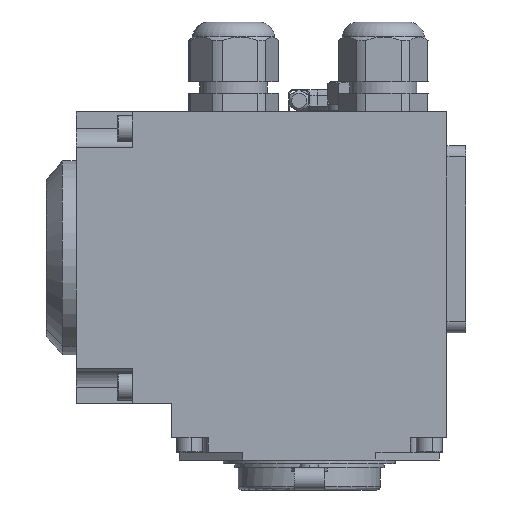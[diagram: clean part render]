
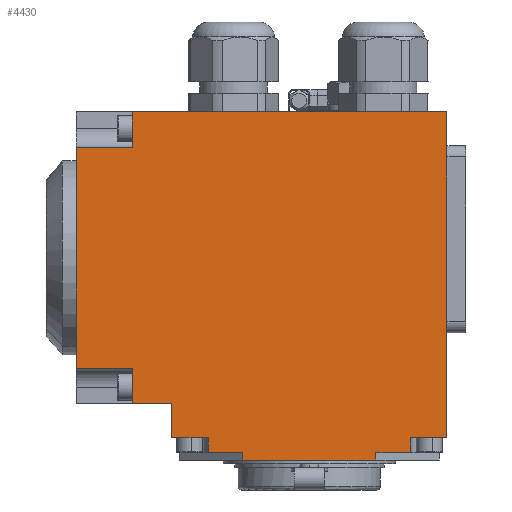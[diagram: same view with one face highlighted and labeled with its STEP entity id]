
A CAD part, left-side view. The second image highlights one B-rep face of the part: STEP entity #4430.
In plain terms, the highlighted planar face has unit normal (-1, 0, 0).
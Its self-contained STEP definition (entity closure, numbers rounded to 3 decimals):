
#15 = CARTESIAN_POINT ( 'NONE',  ( -61.5, 62.25, 9.5 ) ) ;
#80 = CARTESIAN_POINT ( 'NONE',  ( -61.5, 36.75, -9. ) ) ;
#265 = EDGE_CURVE ( 'NONE', #3477, #12577, #16172, .T. ) ;
#421 = DIRECTION ( 'NONE',  ( 1., 0., 0. ) ) ;
#570 = CARTESIAN_POINT ( 'NONE',  ( -61.5, 47.25, 68.5 ) ) ;
#833 = LINE ( 'NONE', #6743, #15998 ) ;
#876 = LINE ( 'NONE', #9746, #1099 ) ;
#904 = DIRECTION ( 'NONE',  ( 0., 0., -1. ) ) ;
#1020 = DIRECTION ( 'NONE',  ( 0., -1., 0. ) ) ;
#1079 = CARTESIAN_POINT ( 'NONE',  ( -61.5, 47.25, 0. ) ) ;
#1099 = VECTOR ( 'NONE', #904, 1000. ) ;
#1264 = EDGE_CURVE ( 'NONE', #11531, #12109, #16256, .T. ) ;
#1388 = EDGE_CURVE ( 'NONE', #18235, #5962, #7796, .T. ) ;
#1410 = EDGE_CURVE ( 'NONE', #16390, #5273, #876, .T. ) ;
#1440 = VECTOR ( 'NONE', #15228, 1000. ) ;
#1806 = VECTOR ( 'NONE', #7988, 1000. ) ;
#1901 = LINE ( 'NONE', #10902, #1440 ) ;
#2145 = VECTOR ( 'NONE', #18337, 1000. ) ;
#2538 = LINE ( 'NONE', #5122, #1806 ) ;
#2549 = CARTESIAN_POINT ( 'NONE',  ( -61.5, 47.25, 0. ) ) ;
#2668 = CARTESIAN_POINT ( 'NONE',  ( -61.5, -17.779, -13. ) ) ;
#2685 = CARTESIAN_POINT ( 'NONE',  ( -61.5, -36.75, 78. ) ) ;
#2923 = ORIENTED_EDGE ( 'NONE', *, *, #13472, .F. ) ;
#3137 = CARTESIAN_POINT ( 'NONE',  ( -61.5, 27., -15. ) ) ;
#3345 = DIRECTION ( 'NONE',  ( 0., -1., 0. ) ) ;
#3477 = VERTEX_POINT ( 'NONE', #3733 ) ;
#3506 = CARTESIAN_POINT ( 'NONE',  ( -61.5, 36.75, -9. ) ) ;
#3692 = VERTEX_POINT ( 'NONE', #2668 ) ;
#3695 = VECTOR ( 'NONE', #1020, 1000. ) ;
#3733 = CARTESIAN_POINT ( 'NONE',  ( -61.5, 47.25, 9.5 ) ) ;
#3888 = VECTOR ( 'NONE', #6520, 1000. ) ;
#3990 = EDGE_CURVE ( 'NONE', #3692, #16548, #2538, .T. ) ;
#4083 = ORIENTED_EDGE ( 'NONE', *, *, #7428, .T. ) ;
#4109 = EDGE_CURVE ( 'NONE', #3692, #14067, #16507, .T. ) ;
#4173 = ORIENTED_EDGE ( 'NONE', *, *, #3990, .F. ) ;
#4430 = ADVANCED_FACE ( 'NONE', ( #11014 ), #17962, .F. ) ;
#4539 = EDGE_CURVE ( 'NONE', #14067, #13021, #8248, .T. ) ;
#4542 = ORIENTED_EDGE ( 'NONE', *, *, #4539, .T. ) ;
#4560 = DIRECTION ( 'NONE',  ( 0., 0., 1. ) ) ;
#4607 = CARTESIAN_POINT ( 'NONE',  ( -61.5, 36.75, 0. ) ) ;
#4783 = DIRECTION ( 'NONE',  ( 0., -1., 0. ) ) ;
#4851 = CARTESIAN_POINT ( 'NONE',  ( -61.5, 62.25, 0. ) ) ;
#5122 = CARTESIAN_POINT ( 'NONE',  ( -61.5, -17.779, 11. ) ) ;
#5273 = VERTEX_POINT ( 'NONE', #18306 ) ;
#5557 = ORIENTED_EDGE ( 'NONE', *, *, #265, .T. ) ;
#5733 = CARTESIAN_POINT ( 'NONE',  ( -61.5, 17.779, -13. ) ) ;
#5745 = DIRECTION ( 'NONE',  ( 0., 0., 1. ) ) ;
#5853 = LINE ( 'NONE', #5733, #16360 ) ;
#5880 = AXIS2_PLACEMENT_3D ( 'NONE', #4851, #421, #4783 ) ;
#5962 = VERTEX_POINT ( 'NONE', #16592 ) ;
#6236 = VERTEX_POINT ( 'NONE', #15577 ) ;
#6244 = VERTEX_POINT ( 'NONE', #11439 ) ;
#6438 = EDGE_CURVE ( 'NONE', #6244, #11531, #15012, .T. ) ;
#6450 = ORIENTED_EDGE ( 'NONE', *, *, #4109, .T. ) ;
#6520 = DIRECTION ( 'NONE',  ( 0., 0., 1. ) ) ;
#6720 = EDGE_CURVE ( 'NONE', #18235, #12128, #17301, .T. ) ;
#6743 = CARTESIAN_POINT ( 'NONE',  ( -61.5, -36.75, -9. ) ) ;
#6807 = CARTESIAN_POINT ( 'NONE',  ( -61.5, 27., -15. ) ) ;
#6854 = CARTESIAN_POINT ( 'NONE',  ( -61.5, -17.779, -13. ) ) ;
#7229 = EDGE_CURVE ( 'NONE', #6244, #16390, #5853, .T. ) ;
#7244 = VECTOR ( 'NONE', #4560, 1000. ) ;
#7254 = DIRECTION ( 'NONE',  ( 0., -1., 0. ) ) ;
#7428 = EDGE_CURVE ( 'NONE', #12577, #9856, #9987, .T. ) ;
#7523 = EDGE_CURVE ( 'NONE', #16548, #5273, #10654, .T. ) ;
#7701 = CARTESIAN_POINT ( 'NONE',  ( -61.5, -17.779, -15. ) ) ;
#7796 = LINE ( 'NONE', #16765, #17627 ) ;
#7988 = DIRECTION ( 'NONE',  ( 0., 0., -1. ) ) ;
#8248 = LINE ( 'NONE', #12523, #3888 ) ;
#8260 = DIRECTION ( 'NONE',  ( 0., 0., 1. ) ) ;
#8544 = VECTOR ( 'NONE', #5745, 1000. ) ;
#8635 = CARTESIAN_POINT ( 'NONE',  ( -61.5, 62.25, 68.5 ) ) ;
#8727 = LINE ( 'NONE', #16344, #15826 ) ;
#9313 = EDGE_CURVE ( 'NONE', #13243, #12128, #15860, .T. ) ;
#9321 = VECTOR ( 'NONE', #16034, 1000. ) ;
#9377 = ORIENTED_EDGE ( 'NONE', *, *, #6438, .F. ) ;
#9519 = VECTOR ( 'NONE', #13707, 1000. ) ;
#9551 = CARTESIAN_POINT ( 'NONE',  ( -61.5, 62.25, 68.5 ) ) ;
#9559 = DIRECTION ( 'NONE',  ( 0., 1., 0. ) ) ;
#9746 = CARTESIAN_POINT ( 'NONE',  ( -61.5, 17.779, 11. ) ) ;
#9856 = VERTEX_POINT ( 'NONE', #4607 ) ;
#9987 = LINE ( 'NONE', #12245, #9519 ) ;
#10020 = ORIENTED_EDGE ( 'NONE', *, *, #1264, .F. ) ;
#10346 = EDGE_CURVE ( 'NONE', #13243, #3477, #8727, .T. ) ;
#10637 = DIRECTION ( 'NONE',  ( 0., 1., 0. ) ) ;
#10654 = LINE ( 'NONE', #6807, #18656 ) ;
#10902 = CARTESIAN_POINT ( 'NONE',  ( -61.5, 62.25, 78. ) ) ;
#11014 = FACE_OUTER_BOUND ( 'NONE', #14884, .T. ) ;
#11439 = CARTESIAN_POINT ( 'NONE',  ( -61.5, 27., -13. ) ) ;
#11507 = ORIENTED_EDGE ( 'NONE', *, *, #7229, .T. ) ;
#11531 = VERTEX_POINT ( 'NONE', #11565 ) ;
#11565 = CARTESIAN_POINT ( 'NONE',  ( -61.5, 27., -9. ) ) ;
#11825 = CARTESIAN_POINT ( 'NONE',  ( -61.5, 62.25, 0. ) ) ;
#12109 = VERTEX_POINT ( 'NONE', #17513 ) ;
#12128 = VERTEX_POINT ( 'NONE', #8635 ) ;
#12245 = CARTESIAN_POINT ( 'NONE',  ( -61.5, 62.25, 0. ) ) ;
#12523 = CARTESIAN_POINT ( 'NONE',  ( -61.5, -27., -15. ) ) ;
#12577 = VERTEX_POINT ( 'NONE', #1079 ) ;
#12710 = EDGE_CURVE ( 'NONE', #6236, #13021, #15259, .T. ) ;
#12770 = CARTESIAN_POINT ( 'NONE',  ( -61.5, 36.75, -9. ) ) ;
#13021 = VERTEX_POINT ( 'NONE', #18406 ) ;
#13095 = VERTEX_POINT ( 'NONE', #2685 ) ;
#13243 = VERTEX_POINT ( 'NONE', #15 ) ;
#13447 = ORIENTED_EDGE ( 'NONE', *, *, #7523, .F. ) ;
#13472 = EDGE_CURVE ( 'NONE', #5962, #13095, #1901, .T. ) ;
#13707 = DIRECTION ( 'NONE',  ( 0., -1., 0. ) ) ;
#13850 = ORIENTED_EDGE ( 'NONE', *, *, #15455, .T. ) ;
#13885 = DIRECTION ( 'NONE',  ( 0., 1., 0. ) ) ;
#14067 = VERTEX_POINT ( 'NONE', #17209 ) ;
#14173 = ORIENTED_EDGE ( 'NONE', *, *, #6720, .T. ) ;
#14884 = EDGE_LOOP ( 'NONE', ( #4083, #17155, #10020, #9377, #11507, #16909, #13447, #4173, #6450, #4542, #17039, #13850, #2923, #18071, #14173, #14905, #15562, #5557 ) ) ;
#14905 = ORIENTED_EDGE ( 'NONE', *, *, #9313, .F. ) ;
#15012 = LINE ( 'NONE', #3137, #7244 ) ;
#15228 = DIRECTION ( 'NONE',  ( 0., -1., 0. ) ) ;
#15259 = LINE ( 'NONE', #80, #9321 ) ;
#15455 = EDGE_CURVE ( 'NONE', #6236, #13095, #833, .T. ) ;
#15562 = ORIENTED_EDGE ( 'NONE', *, *, #10346, .T. ) ;
#15577 = CARTESIAN_POINT ( 'NONE',  ( -61.5, -36.75, -9. ) ) ;
#15694 = LINE ( 'NONE', #12770, #2145 ) ;
#15826 = VECTOR ( 'NONE', #3345, 1000. ) ;
#15860 = LINE ( 'NONE', #11825, #8544 ) ;
#15901 = CARTESIAN_POINT ( 'NONE',  ( -61.5, 17.779, -13. ) ) ;
#15922 = VECTOR ( 'NONE', #13885, 1000. ) ;
#15998 = VECTOR ( 'NONE', #18441, 1000. ) ;
#16034 = DIRECTION ( 'NONE',  ( 0., 1., 0. ) ) ;
#16037 = VECTOR ( 'NONE', #10637, 1000. ) ;
#16172 = LINE ( 'NONE', #2549, #16401 ) ;
#16256 = LINE ( 'NONE', #3506, #16037 ) ;
#16344 = CARTESIAN_POINT ( 'NONE',  ( -61.5, 62.25, 9.5 ) ) ;
#16360 = VECTOR ( 'NONE', #7254, 1000. ) ;
#16390 = VERTEX_POINT ( 'NONE', #15901 ) ;
#16401 = VECTOR ( 'NONE', #18756, 1000. ) ;
#16507 = LINE ( 'NONE', #6854, #3695 ) ;
#16548 = VERTEX_POINT ( 'NONE', #7701 ) ;
#16592 = CARTESIAN_POINT ( 'NONE',  ( -61.5, 47.25, 78. ) ) ;
#16765 = CARTESIAN_POINT ( 'NONE',  ( -61.5, 47.25, 0. ) ) ;
#16909 = ORIENTED_EDGE ( 'NONE', *, *, #1410, .T. ) ;
#17039 = ORIENTED_EDGE ( 'NONE', *, *, #12710, .F. ) ;
#17155 = ORIENTED_EDGE ( 'NONE', *, *, #17778, .F. ) ;
#17209 = CARTESIAN_POINT ( 'NONE',  ( -61.5, -27., -13. ) ) ;
#17301 = LINE ( 'NONE', #9551, #15922 ) ;
#17513 = CARTESIAN_POINT ( 'NONE',  ( -61.5, 36.75, -9. ) ) ;
#17627 = VECTOR ( 'NONE', #8260, 1000. ) ;
#17778 = EDGE_CURVE ( 'NONE', #12109, #9856, #15694, .T. ) ;
#17962 = PLANE ( 'NONE',  #5880 ) ;
#18071 = ORIENTED_EDGE ( 'NONE', *, *, #1388, .F. ) ;
#18235 = VERTEX_POINT ( 'NONE', #570 ) ;
#18306 = CARTESIAN_POINT ( 'NONE',  ( -61.5, 17.779, -15. ) ) ;
#18337 = DIRECTION ( 'NONE',  ( 0., 0., 1. ) ) ;
#18406 = CARTESIAN_POINT ( 'NONE',  ( -61.5, -27., -9. ) ) ;
#18441 = DIRECTION ( 'NONE',  ( 0., 0., 1. ) ) ;
#18656 = VECTOR ( 'NONE', #9559, 1000. ) ;
#18756 = DIRECTION ( 'NONE',  ( 0., 0., -1. ) ) ;
